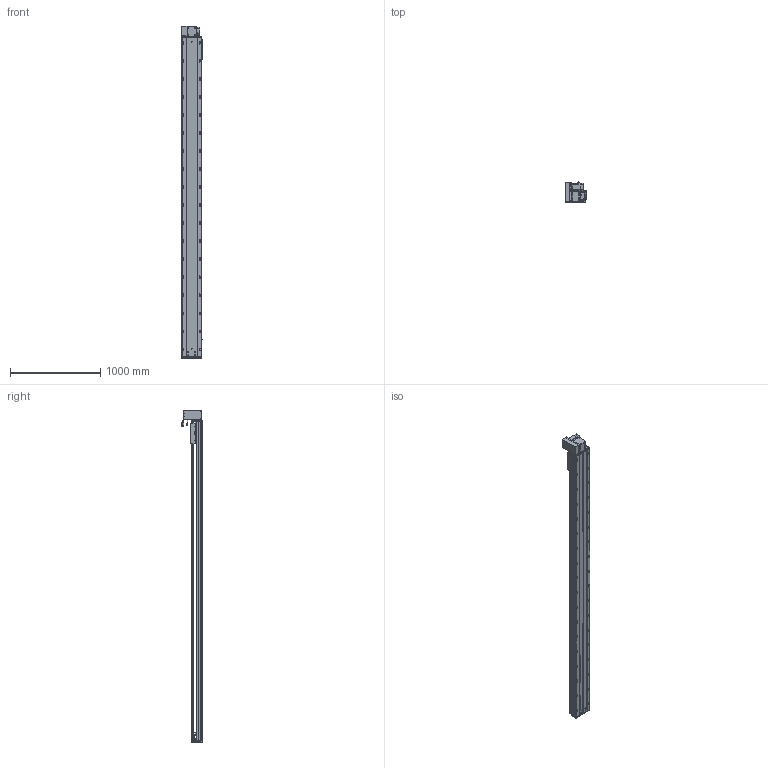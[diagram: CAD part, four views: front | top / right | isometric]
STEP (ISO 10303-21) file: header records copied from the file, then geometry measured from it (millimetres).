
FILE_DESCRIPTION (( 'STEP AP203' ), '1' );
FILE_NAME ('RY220-T-300-UL.SLDASM_3200.step', '2022-07-25T08:36:40', ( '' ), ( '' ), 'SwSTEP 2.0', 'SolidWorks 2016', '' );
FILE_SCHEMA (( 'CONFIG_CONTROL_DESIGN' ));
Length unit declared in the file: millimetre
Products named in the file (14): RY220翋肮祭謫釱; RY220-俋离672覜茼んえ; RY220-T-300-奻裔啣_3200; 滅袉蝶18-15; RY220翋肮祭謫裔啣; RY220圉猾敕々湍臏賑輸; RY220-T-湍謫欶(鍼踢); 怢湛750W_ECMA-CX0807ES; RY220-T-蛌殏萇儂假蚾啣(750W); RY220-同步轮副支撑座6304×2; RY220-T菁釱-300_3200; RY220-T-300-UL.SLDASM_3200; 覜茼ん672; 110A-T-肮祭謫釱傷裔
Assembly tree (18 placements, depth 2):
  RY220-T-300-UL.SLDASM_3200
    RY220-T菁釱-300_3200
    RY220翋肮祭謫釱
    覜茼ん672  x3
    RY220圉猾敕々湍臏賑輸
    RY220-T-300-奻裔啣_3200
    RY220-俋离672覜茼んえ
    滅袉蝶18-15  x3
    RY220翋肮祭謫裔啣  x2
    110A-T-肮祭謫釱傷裔
    怢湛750W_ECMA-CX0807ES
    RY220-T-湍謫欶(鍼踢)
    RY220-T-蛌殏萇儂假蚾啣(750W)
    RY220-同步轮副支撑座6304×2
Bounding box: 239.7 x 231.74 x 3680.5 mm (x, y, z)
Volume: 26499746.2 mm3; surface area: 8220495.6 mm2
Topology: 19 solids, 19 shells, 3066 faces, 8483 edges, 5302 vertices
Faces by surface type: cylinder 1522, plane 1069, cone 393, bspline 56, sphere 16, torus 10
Entity records: 102243 total; most frequent: CARTESIAN_POINT 28783, ORIENTED_EDGE 15162, DIRECTION 14688, EDGE_CURVE 7581, AXIS2_PLACEMENT_3D 5316, VERTEX_POINT 4926, LINE 4056, VECTOR 4056
